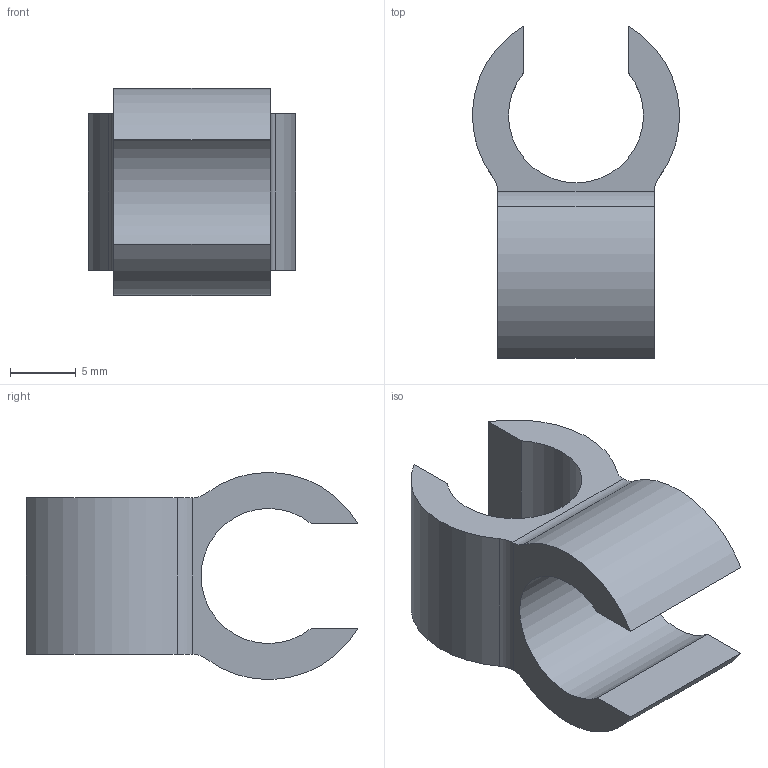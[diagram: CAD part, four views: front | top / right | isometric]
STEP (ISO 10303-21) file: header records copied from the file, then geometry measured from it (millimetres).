
FILE_DESCRIPTION(/* description */ (''),/* implementation_level */ '2;1');
FILE_NAME(/* name */ 'D:\$Workingspace\Designs\Katalog\Cadsoft\GTV Prwadnice II\PB-D(KW)\PB-D(KW)\Akcesoria\Bryły 3D MB akcesoria\PB-D-LR-00-0.stp',/* time_stamp */ '2017-02-09T10:37:29+01:00',/* author */ ('tomaszw'),/* organization */ (''),/* preprocessor_version */ 'ST-DEVELOPER v16.1',/* originating_system */ 'Autodesk Inventor 2016',/* authorisation */ '');
FILE_SCHEMA (('CONFIG_CONTROL_DESIGN'));
Length unit declared in the file: millimetre
Products named in the file (1): PB-D-LR-00-0
Bounding box: 15.79 x 25.3 x 15.79 mm (x, y, z)
Volume: 1769.4 mm3; surface area: 1708.3 mm2
Topology: 1 solids, 1 shells, 18 faces, 48 edges, 32 vertices
Faces by surface type: cylinder 10, plane 8
Entity records: 600 total; most frequent: CARTESIAN_POINT 111, DIRECTION 102, ORIENTED_EDGE 96, EDGE_CURVE 48, AXIS2_PLACEMENT_3D 39, VERTEX_POINT 32, LINE 24, VECTOR 24
